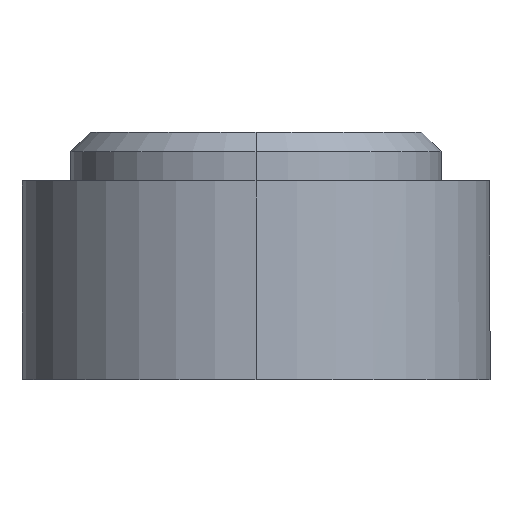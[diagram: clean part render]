
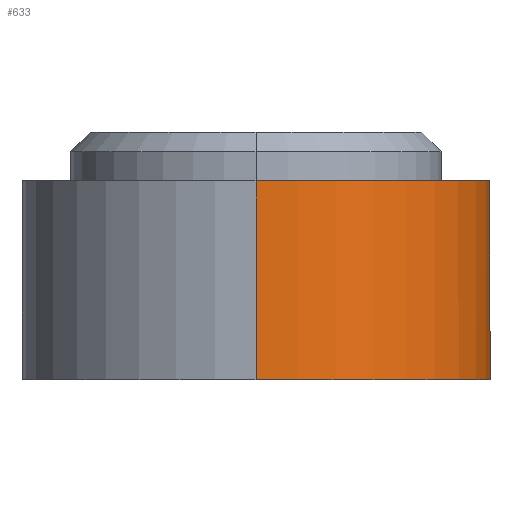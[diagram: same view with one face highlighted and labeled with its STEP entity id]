
A CAD part, left-side view. The second image highlights one B-rep face of the part: STEP entity #633.
In plain terms, the highlighted cylindrical face has radius 6 mm (diameter 12 mm), a partial arc.
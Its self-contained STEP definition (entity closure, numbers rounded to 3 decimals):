
#57 = EDGE_CURVE ( 'NONE', #423, #928, #785, .T. ) ;
#71 = CIRCLE ( 'NONE', #586, 6. ) ;
#72 = ORIENTED_EDGE ( 'NONE', *, *, #1524, .F. ) ;
#135 = DIRECTION ( 'NONE',  ( -1., 0., 0. ) ) ;
#172 = VECTOR ( 'NONE', #623, 1000. ) ;
#197 = CARTESIAN_POINT ( 'NONE',  ( 0., -6., -1.25 ) ) ;
#238 = DIRECTION ( 'NONE',  ( 1., 0., 0. ) ) ;
#310 = ORIENTED_EDGE ( 'NONE', *, *, #57, .F. ) ;
#365 = ORIENTED_EDGE ( 'NONE', *, *, #1351, .T. ) ;
#423 = VERTEX_POINT ( 'NONE', #1081 ) ;
#439 = CYLINDRICAL_SURFACE ( 'NONE', #920, 6. ) ;
#482 = CARTESIAN_POINT ( 'NONE',  ( 1.01, -5.914, 0. ) ) ;
#561 = EDGE_CURVE ( 'NONE', #423, #765, #764, .T. ) ;
#571 = EDGE_LOOP ( 'NONE', ( #310, #648, #1360, #365, #885, #72 ) ) ;
#586 = AXIS2_PLACEMENT_3D ( 'NONE', #1325, #748, #1087 ) ;
#623 = DIRECTION ( 'NONE',  ( 0., 0., -1. ) ) ;
#633 = ADVANCED_FACE ( 'NONE', ( #1366 ), #439, .T. ) ;
#648 = ORIENTED_EDGE ( 'NONE', *, *, #561, .T. ) ;
#705 = DIRECTION ( 'NONE',  ( 0., 0., 1. ) ) ;
#743 = CARTESIAN_POINT ( 'NONE',  ( 0., 0., 2.6 ) ) ;
#748 = DIRECTION ( 'NONE',  ( 0., 0., -1. ) ) ;
#764 = LINE ( 'NONE', #847, #172 ) ;
#765 = VERTEX_POINT ( 'NONE', #1188 ) ;
#785 = CIRCLE ( 'NONE', #900, 6. ) ;
#838 = VERTEX_POINT ( 'NONE', #482 ) ;
#840 = CARTESIAN_POINT ( 'NONE',  ( 1.01, -5.914, 2.6 ) ) ;
#847 = CARTESIAN_POINT ( 'NONE',  ( -6., 0., 2.6 ) ) ;
#853 = DIRECTION ( 'NONE',  ( 0., 0., -1. ) ) ;
#885 = ORIENTED_EDGE ( 'NONE', *, *, #887, .T. ) ;
#887 = EDGE_CURVE ( 'NONE', #1401, #838, #1431, .T. ) ;
#900 = AXIS2_PLACEMENT_3D ( 'NONE', #1053, #705, #1170 ) ;
#920 = AXIS2_PLACEMENT_3D ( 'NONE', #743, #853, #135 ) ;
#928 = VERTEX_POINT ( 'NONE', #976 ) ;
#964 = DIRECTION ( 'NONE',  ( 0., 0., -1. ) ) ;
#976 = CARTESIAN_POINT ( 'NONE',  ( 1.01, -5.914, 3.85 ) ) ;
#1019 = CARTESIAN_POINT ( 'NONE',  ( 0., -6., 0. ) ) ;
#1051 = EDGE_CURVE ( 'NONE', #1072, #765, #71, .T. ) ;
#1053 = CARTESIAN_POINT ( 'NONE',  ( 0., 0., 3.85 ) ) ;
#1072 = VERTEX_POINT ( 'NONE', #1082 ) ;
#1074 = LINE ( 'NONE', #197, #1278 ) ;
#1078 = CARTESIAN_POINT ( 'NONE',  ( 0., 0., 0. ) ) ;
#1081 = CARTESIAN_POINT ( 'NONE',  ( -6., 0., 3.85 ) ) ;
#1082 = CARTESIAN_POINT ( 'NONE',  ( 0., -6., -1.25 ) ) ;
#1087 = DIRECTION ( 'NONE',  ( -1., 0., 0. ) ) ;
#1170 = DIRECTION ( 'NONE',  ( 1., 0., 0. ) ) ;
#1178 = LINE ( 'NONE', #840, #1502 ) ;
#1188 = CARTESIAN_POINT ( 'NONE',  ( -6., 0., -1.25 ) ) ;
#1191 = DIRECTION ( 'NONE',  ( 0., 0., 1. ) ) ;
#1228 = AXIS2_PLACEMENT_3D ( 'NONE', #1078, #1191, #238 ) ;
#1253 = DIRECTION ( 'NONE',  ( 0., 0., 1. ) ) ;
#1278 = VECTOR ( 'NONE', #1253, 1000. ) ;
#1325 = CARTESIAN_POINT ( 'NONE',  ( 0., 0., -1.25 ) ) ;
#1351 = EDGE_CURVE ( 'NONE', #1072, #1401, #1074, .T. ) ;
#1360 = ORIENTED_EDGE ( 'NONE', *, *, #1051, .F. ) ;
#1366 = FACE_OUTER_BOUND ( 'NONE', #571, .T. ) ;
#1401 = VERTEX_POINT ( 'NONE', #1019 ) ;
#1431 = CIRCLE ( 'NONE', #1228, 6. ) ;
#1502 = VECTOR ( 'NONE', #964, 1000. ) ;
#1524 = EDGE_CURVE ( 'NONE', #928, #838, #1178, .T. ) ;
